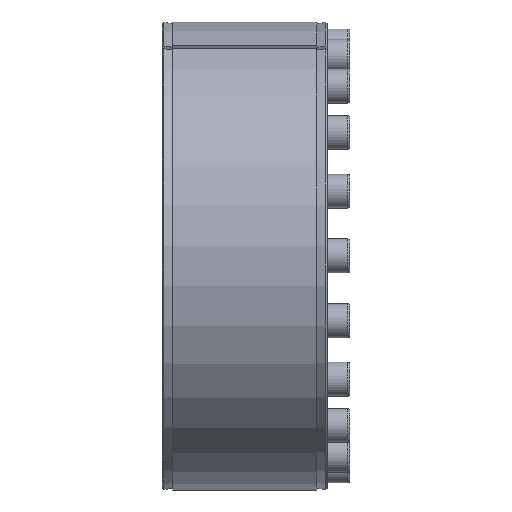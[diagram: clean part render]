
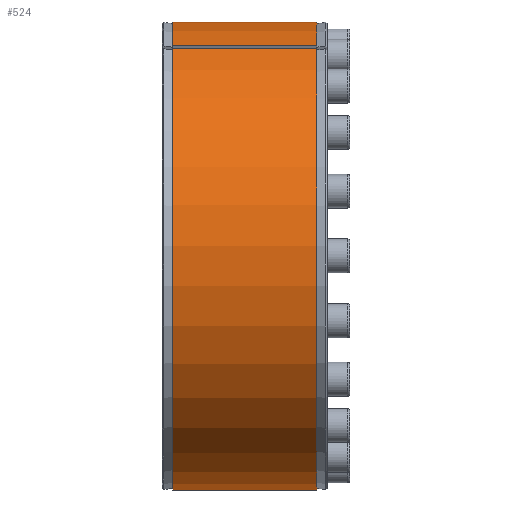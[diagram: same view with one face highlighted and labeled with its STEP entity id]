
A CAD part, left-side view. The second image highlights one B-rep face of the part: STEP entity #524.
In plain terms, the highlighted cylindrical face has radius 227.5 mm (diameter 455 mm), a partial arc.
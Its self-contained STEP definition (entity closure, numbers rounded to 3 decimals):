
#524 = ADVANCED_FACE( '', ( #1063 ), #1064, .T. );
#1063 = FACE_OUTER_BOUND( '', #1601, .T. );
#1064 = CYLINDRICAL_SURFACE( '', #1602, 227.5 );
#1601 = EDGE_LOOP( '', ( #2431, #2432, #2433, #2434 ) );
#1602 = AXIS2_PLACEMENT_3D( '', #2435, #2436, #2437 );
#2431 = ORIENTED_EDGE( '', *, *, #2865, .T. );
#2432 = ORIENTED_EDGE( '', *, *, #2708, .T. );
#2433 = ORIENTED_EDGE( '', *, *, #2823, .F. );
#2434 = ORIENTED_EDGE( '', *, *, #2633, .T. );
#2435 = CARTESIAN_POINT( '', ( 0., -60., 0. ) );
#2436 = DIRECTION( '', ( 0., 1., 0. ) );
#2437 = DIRECTION( '', ( 0., 0., -1. ) );
#2633 = EDGE_CURVE( '', #2979, #2977, #2980, .F. );
#2708 = EDGE_CURVE( '', #3115, #3113, #3116, .T. );
#2823 = EDGE_CURVE( '', #2979, #3113, #3295, .T. );
#2865 = EDGE_CURVE( '', #2977, #3115, #3358, .T. );
#2977 = VERTEX_POINT( '', #3520 );
#2979 = VERTEX_POINT( '', #3523 );
#2980 = LINE( '', #3524, #3525 );
#3113 = VERTEX_POINT( '', #3755 );
#3115 = VERTEX_POINT( '', #3758 );
#3116 = LINE( '', #3759, #3760 );
#3295 = CIRCLE( '', #3987, 227.5 );
#3358 = CIRCLE( '', #4050, 227.5 );
#3520 = CARTESIAN_POINT( '', ( -105.947, 150., 201.324 ) );
#3523 = CARTESIAN_POINT( '', ( -105.947, 10., 201.324 ) );
#3524 = CARTESIAN_POINT( '', ( -105.947, -60., 201.324 ) );
#3525 = VECTOR( '', #4202, 1000. );
#3755 = CARTESIAN_POINT( '', ( -100.601, 10., 204.048 ) );
#3758 = CARTESIAN_POINT( '', ( -100.601, 150., 204.048 ) );
#3759 = CARTESIAN_POINT( '', ( -100.601, -60., 204.048 ) );
#3760 = VECTOR( '', #4282, 1000. );
#3987 = AXIS2_PLACEMENT_3D( '', #4498, #4499, #4500 );
#4050 = AXIS2_PLACEMENT_3D( '', #4579, #4580, #4581 );
#4202 = DIRECTION( '', ( 0., -1., 0. ) );
#4282 = DIRECTION( '', ( 0., -1., 0. ) );
#4498 = CARTESIAN_POINT( '', ( 0., 10., 0. ) );
#4499 = DIRECTION( '', ( 0., -1., 0. ) );
#4500 = DIRECTION( '', ( 0., 0., -1. ) );
#4579 = CARTESIAN_POINT( '', ( 0., 150., 0. ) );
#4580 = DIRECTION( '', ( 0., -1., 0. ) );
#4581 = DIRECTION( '', ( 0., 0., -1. ) );
